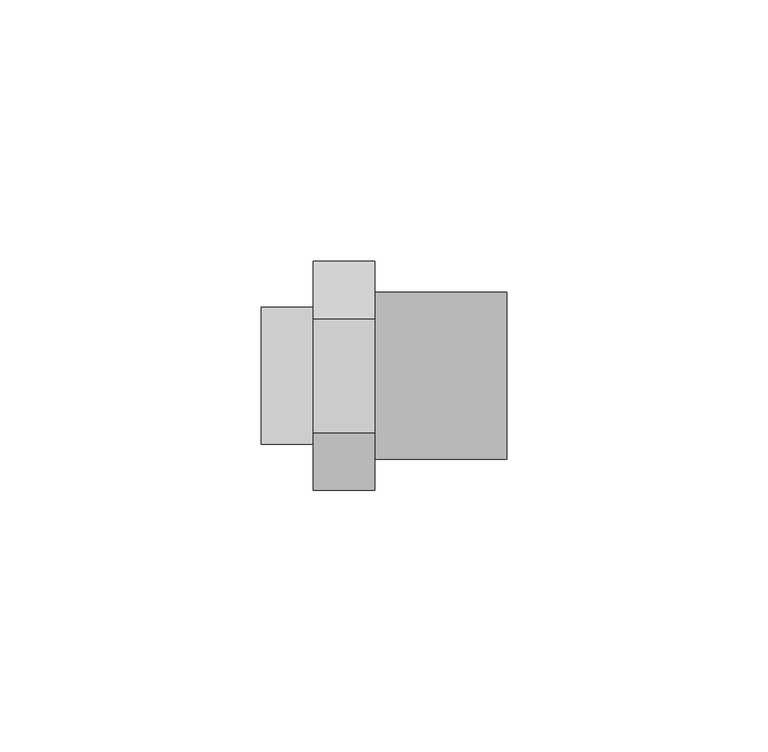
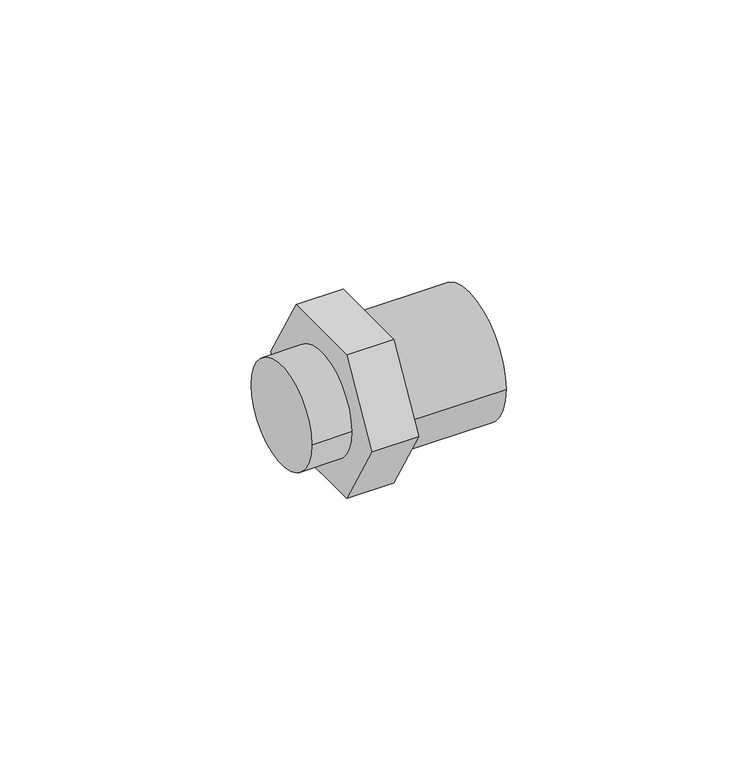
"""IFC4 building model written with IfcOpenShell, lengths in millimetres: pipe fitting geometry, 01101008_ : Manguitos multiplos H/M/H."""

from ifc_helpers import new_model, si_unit, point, frame, origin, origin_2d, place, context, project, spatial, polyline, circle_curve, trimmed, segment, composite_curve, outline, extrude, source, transform, mapped, element, save


def pipe_fitting_32f7e3ab(model_context):
    return source(origin(), model_context, "Body", "SweptSolid", [
        extrude(outline(composite_curve([segment(trimmed(circle_curve(origin_2d(), 13.125), [point((13.125, 0.0))], [point((-13.125, 0.0))], False, "CARTESIAN"), True, "CONTINUOUS"), segment(trimmed(circle_curve(origin_2d(), 13.125), [point((-13.125, 0.0))], [point((13.125, 0.0))], False, "CARTESIAN"), True, "CONTINUOUS")], self_intersect=False)), frame((0.0, 0.0, 0.0), z_axis=(1.0, 0.0, 0.0), x_axis=(0.0, 1.0, 0.0)), (0.0, 0.0, 1.0), 10.0),
        extrude(outline(polyline([(-10.9696551, 19.0), (10.9696551, 19.0), (21.9393102, 0.0), (10.9696551, -19.0), (-10.9696551, -19.0), (-21.9393102, 0.0), (-10.9696551, 19.0)])), frame((10.0, 0.0, 0.0), z_axis=(1.0, 0.0, 0.0), x_axis=(0.0, 1.0, 0.0)), (0.0, 0.0, 1.0), 11.75),
        extrude(outline(composite_curve([segment(trimmed(circle_curve(origin_2d(), 16.0), [point((-16.0, 0.0))], [point((16.0, 0.0))], False, "CARTESIAN"), True, "CONTINUOUS"), segment(trimmed(circle_curve(origin_2d(), 16.0), [point((16.0, 0.0))], [point((-16.0, 0.0))], False, "CARTESIAN"), True, "CONTINUOUS")], self_intersect=False)), frame((21.75, 0.0, 0.0), z_axis=(1.0, 0.0, 0.0), x_axis=(0.0, 1.0, 0.0)), (0.0, 0.0, 1.0), 25.25),
    ])


if __name__ == "__main__":
    model = new_model("IFC4")
    model_context = context("Model", 3, world=origin())
    ifc_project = project(units=[si_unit("LENGTHUNIT", "METRE", prefix="MILLI")], contexts=[model_context])
    site = spatial("IfcSite", under=ifc_project)
    building = spatial("IfcBuilding", under=site)
    placement = place(None, origin())
    pipe_fitting_shape = pipe_fitting_32f7e3ab(model_context)
    element("IfcPipeFitting", 1, ObjectType="01101008_ : Manguitos multiplos H/M/H", at=placement, inside=building, context=model_context, shape_type="MappedRepresentation", body=[
        mapped(pipe_fitting_shape, transform((0.0, 0.0, 0.0), x_axis=(1.0, 0.0, 0.0), y_axis=(0.0, 1.0, 0.0), z_axis=(0.0, 0.0, 1.0))),
    ])
    save(model, "model.ifc")
